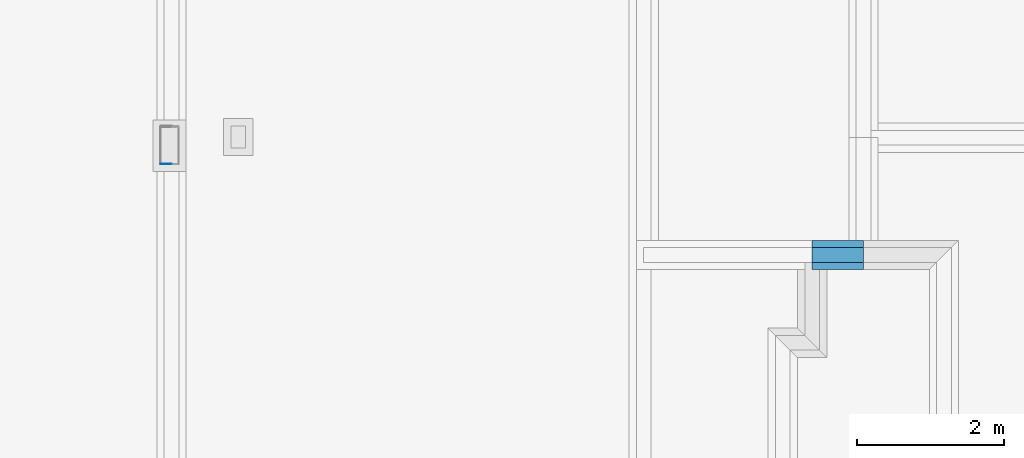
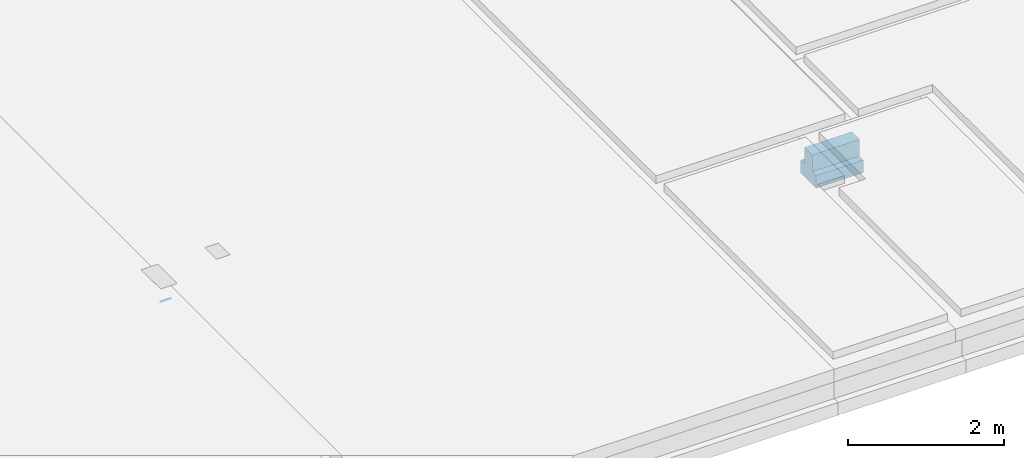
# One storey, part 2 of 6: 1 beam, 1 footing.
"""IFC2X3 building model written with IfcOpenShell, lengths in metres."""

from ifc_helpers import new_model, si_unit, direction, frame, origin_with_axes, place, context, subcontext, project, spatial, polyline, outline, extrude, material, type_object, element, save


model = new_model("IFC2X3")

# Units and contexts
model_context = context("Model", 3, precision=0.0001, world=origin_with_axes(), true_north=direction((0.0, 1.0)))
plan_context = context("Plan", 2, precision=0.0001, world=origin_with_axes(), true_north=direction((0.0, 1.0)))
body_context = subcontext(model_context, "Body", "Model", "MODEL_VIEW")
ifc_project = project(units=[si_unit("MASSUNIT", "GRAM", prefix="KILO"), si_unit("AREAUNIT", "SQUARE_METRE"), si_unit("LENGTHUNIT", "METRE"), si_unit("VOLUMEUNIT", "CUBIC_METRE")], contexts=[plan_context, model_context])

# Site, building, storey
site_placement = place(None, origin_with_axes())
site = spatial("IfcSite", under=ifc_project, at=site_placement, Name="$", CompositionType="ELEMENT")
building_placement = place(site_placement, origin_with_axes())
building = spatial("IfcBuilding", under=site, at=building_placement, Name="Classeur ENS Ensemble", CompositionType="ELEMENT")
storey_placement = place(building_placement, frame((-20.30778888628, -1.812671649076, 0.0), z_axis=(0.0, 0.0, 1.0), x_axis=(1.0, 0.0, 0.0)))
storey = spatial("IfcBuildingStorey", under=building, at=storey_placement, Name="000 Fondations", CompositionType="ELEMENT", Elevation=0.0)

# Footing
ifc_material = material(Name="Default material")
footing_placement = place(storey_placement, frame((33.68329531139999, -7.027328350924, -0.7799999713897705), z_axis=(0.0, 0.0, 1.0), x_axis=(1.0, 0.0, 0.0)))
element("IfcFooting", 1, at=footing_placement, inside=storey, material=ifc_material, Name="Semelle filante 40x20", PredefinedType="STRIP_FOOTING", context=body_context, shape_type="SweptSolid", held_by="IfcProductRepresentation", body=[
    extrude(outline(polyline([(0.0, -0.2000000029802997), (0.7000000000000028, -0.2000000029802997), (0.7000000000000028, 0.2000000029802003), (0.0, 0.2000000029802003), (0.0, -0.2000000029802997)])), origin_with_axes(), (0.0, 0.0, 1.0), 0.2000000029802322),
    extrude(outline(polyline([(0.0, -0.1000000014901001), (0.7000000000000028, -0.1000000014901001), (0.7000000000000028, 0.1000000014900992), (0.0, 0.1000000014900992), (0.0, -0.1000000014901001)])), frame((0.0, 0.0, 0.2000000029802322), z_axis=(0.0, 0.0, 1.0), x_axis=(1.0, 0.0, 0.0)), (0.0, 0.0, 1.0), 0.260000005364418),
])

# Beam
beam_type = type_object("IfcBeamType", PredefinedType="BEAM")
beam_placement = place(storey_placement, frame((24.7932953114, -5.787328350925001, -0.3199999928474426), z_axis=(0.0, 0.0, 1.0), x_axis=(1.0, 0.0, 0.0)))
element("IfcBeam", 2, at=beam_placement, inside=storey, type_object=beam_type, material=ifc_material, Name="poutre fictive -32", context=body_context, shape_type="SweptSolid", held_by="IfcProductRepresentation", body=[
    extrude(outline(polyline([(0.0, 0.001000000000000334), (0.0, 0.001000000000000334), (0.0, 0.001000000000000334), (0.1499999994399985, 0.001000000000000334), (0.1499999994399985, 0.001000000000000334), (0.1499999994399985, 0.001000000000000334), (0.1499999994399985, -0.0009999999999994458), (0.1499999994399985, -0.0009999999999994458), (0.1499999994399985, -0.0009999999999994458), (0.0, -0.0009999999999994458), (0.0, -0.0009999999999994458), (0.0, -0.0009999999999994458), (0.0, 0.001000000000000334)])), origin_with_axes(), (0.0, 0.0, 1.0), 0.001000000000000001),
])

save(model, "model.ifc")
